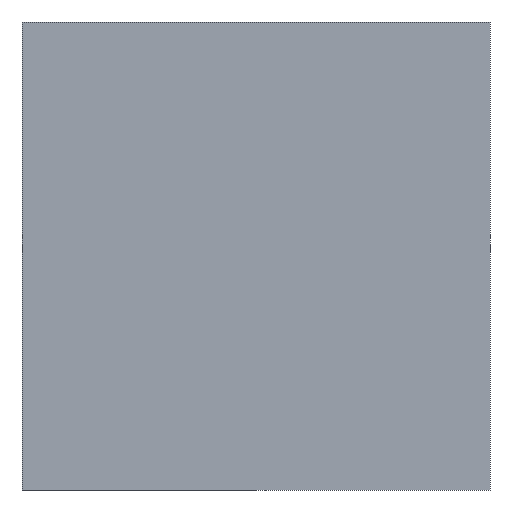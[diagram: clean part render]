
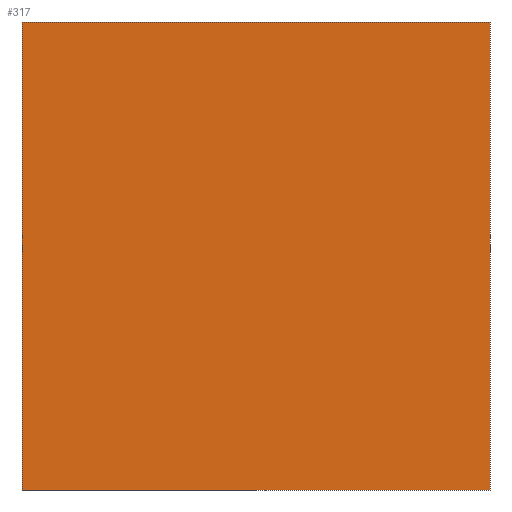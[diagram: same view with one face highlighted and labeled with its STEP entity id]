
A CAD part, left-side view. The second image highlights one B-rep face of the part: STEP entity #317.
In plain terms, the highlighted planar face has unit normal (-1, 0, 0).
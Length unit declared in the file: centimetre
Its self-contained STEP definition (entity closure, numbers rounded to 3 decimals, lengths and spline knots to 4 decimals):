
#16 = ORIENTED_EDGE ( 'NONE', *, *, #242, .T. ) ;
#23 = VERTEX_POINT ( 'NONE', #532 ) ;
#57 = CARTESIAN_POINT ( 'NONE',  ( 0., 1000., 0. ) ) ;
#62 = DIRECTION ( 'NONE',  ( 0., 0., -1. ) ) ;
#64 = VERTEX_POINT ( 'NONE', #584 ) ;
#65 = EDGE_LOOP ( 'NONE', ( #16, #627, #129, #66 ) ) ;
#66 = ORIENTED_EDGE ( 'NONE', *, *, #265, .T. ) ;
#91 = DIRECTION ( 'NONE',  ( 0., 0., -1. ) ) ;
#94 = DIRECTION ( 'NONE',  ( 0., -1., 0. ) ) ;
#98 = CARTESIAN_POINT ( 'NONE',  ( 0., 1000., 1000. ) ) ;
#111 = CARTESIAN_POINT ( 'NONE',  ( 0., 1000., 1000. ) ) ;
#129 = ORIENTED_EDGE ( 'NONE', *, *, #386, .F. ) ;
#136 = VECTOR ( 'NONE', #62, 100. ) ;
#155 = VECTOR ( 'NONE', #91, 100. ) ;
#170 = VECTOR ( 'NONE', #467, 100. ) ;
#196 = CARTESIAN_POINT ( 'NONE',  ( 0., 0., 0. ) ) ;
#203 = CARTESIAN_POINT ( 'NONE',  ( 0., 0., 1000. ) ) ;
#211 = PLANE ( 'NONE',  #283 ) ;
#228 = VECTOR ( 'NONE', #94, 100. ) ;
#242 = EDGE_CURVE ( 'NONE', #23, #577, #625, .T. ) ;
#261 = LINE ( 'NONE', #479, #136 ) ;
#265 = EDGE_CURVE ( 'NONE', #64, #23, #261, .T. ) ;
#266 = DIRECTION ( 'NONE',  ( 1., 0., 0. ) ) ;
#283 = AXIS2_PLACEMENT_3D ( 'NONE', #111, #266, #430 ) ;
#310 = FACE_OUTER_BOUND ( 'NONE', #65, .T. ) ;
#317 = ADVANCED_FACE ( 'NONE', ( #310 ), #211, .F. ) ;
#355 = LINE ( 'NONE', #607, #155 ) ;
#383 = VERTEX_POINT ( 'NONE', #203 ) ;
#386 = EDGE_CURVE ( 'NONE', #64, #383, #565, .T. ) ;
#430 = DIRECTION ( 'NONE',  ( 0., 0., -1. ) ) ;
#452 = EDGE_CURVE ( 'NONE', #383, #577, #355, .T. ) ;
#467 = DIRECTION ( 'NONE',  ( 0., -1., 0. ) ) ;
#479 = CARTESIAN_POINT ( 'NONE',  ( 0., 1000., 1000. ) ) ;
#532 = CARTESIAN_POINT ( 'NONE',  ( 0., 1000., 0. ) ) ;
#565 = LINE ( 'NONE', #98, #228 ) ;
#577 = VERTEX_POINT ( 'NONE', #196 ) ;
#584 = CARTESIAN_POINT ( 'NONE',  ( 0., 1000., 1000. ) ) ;
#607 = CARTESIAN_POINT ( 'NONE',  ( 0., 0., 1000. ) ) ;
#625 = LINE ( 'NONE', #57, #170 ) ;
#627 = ORIENTED_EDGE ( 'NONE', *, *, #452, .F. ) ;
